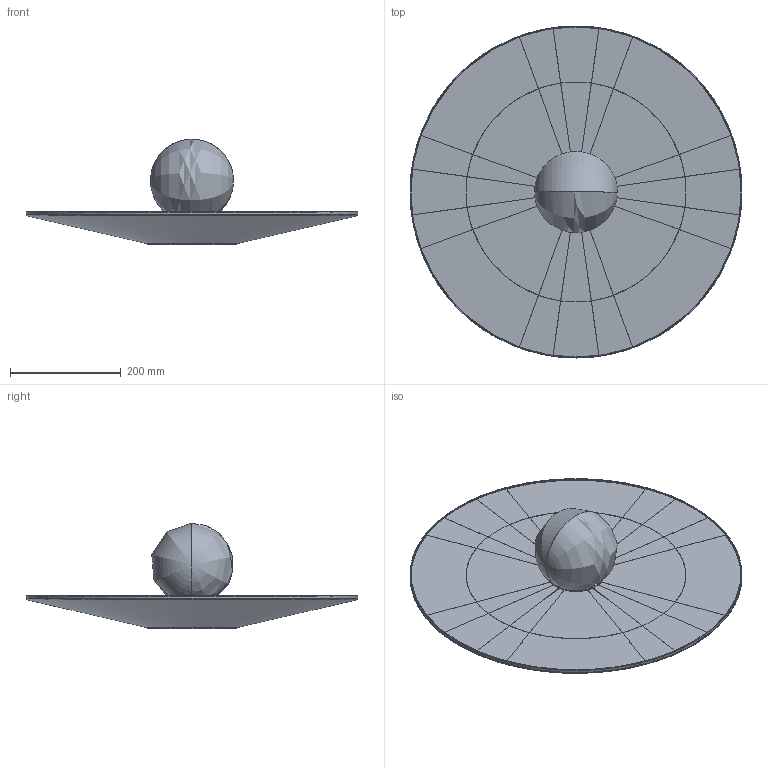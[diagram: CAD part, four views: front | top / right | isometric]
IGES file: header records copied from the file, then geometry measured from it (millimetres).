
Start section: SolidWorks IGES file using analytic representation for surfaces
Global section: file name: \\192.168.0.53\Reserch Development\SITO WEB\2024\File 2D 3D\Prodotti\Caricamenti\Cartelle non compresse\Caleide Eto\De Castelli-3D-Caleide Eto 60.IGS; native system: SolidWorks 2025; preprocessor: SolidWorks 2025; author: lauraa; date: 260514.102302; units: millimetre
Bounding box: 600 x 600 x 190.76 mm (x, y, z)
Surface area: 706662.1 mm2 (no closed solid volume)
Topology: 0 solids, 0 shells, 247 faces, 3458 edges, 3457 vertices
Faces by surface type: bspline 155, revolution 92
